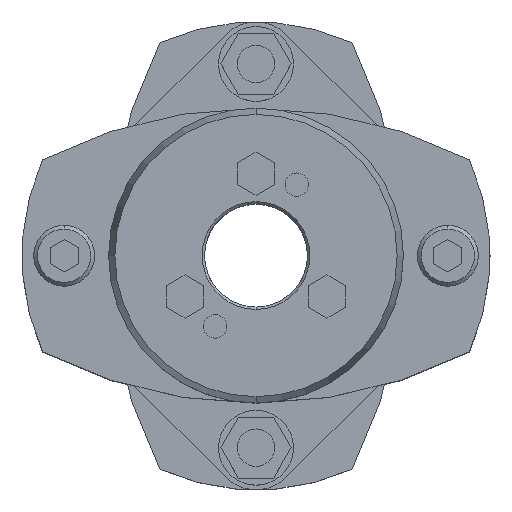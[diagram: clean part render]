
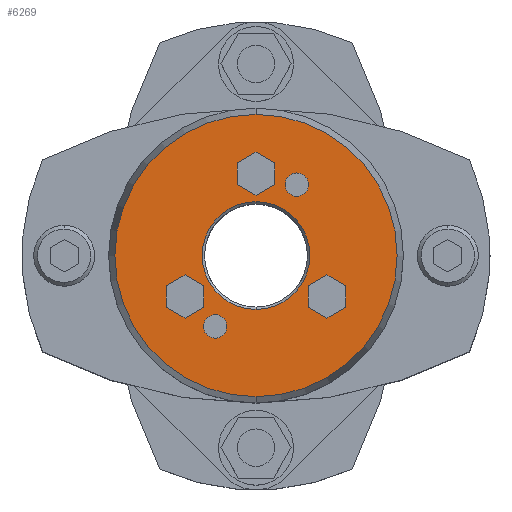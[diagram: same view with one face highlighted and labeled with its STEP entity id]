
A CAD part, top view. The second image highlights one B-rep face of the part: STEP entity #6269.
In plain terms, the highlighted planar face has unit normal (0, 0, 1).
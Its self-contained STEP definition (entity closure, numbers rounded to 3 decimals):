
#1677=CARTESIAN_POINT('',(0.,11.5,55.5));
#1678=VERTEX_POINT('',#1677);
#1694=CARTESIAN_POINT('',(0.,-11.5,55.5));
#1695=VERTEX_POINT('',#1694);
#1702=CARTESIAN_POINT('',(0.,0.,55.5));
#1703=DIRECTION('',(0.0,0.0,1.0));
#1704=DIRECTION('',(0.0,1.0,0.0));
#1705=AXIS2_PLACEMENT_3D('',#1702,#1703,#1704);
#1706=CIRCLE('',#1705,11.5);
#1707=EDGE_CURVE('',#1695,#1678,#1706,.T.);
#1865=CARTESIAN_POINT('',(0.,-30.16,55.5));
#1866=VERTEX_POINT('',#1865);
#1873=CARTESIAN_POINT('',(0.,30.16,55.5));
#1874=VERTEX_POINT('',#1873);
#1875=CARTESIAN_POINT('',(0.,0.,55.5));
#1876=DIRECTION('',(0.0,0.0,-1.0));
#1877=DIRECTION('',(0.0,-1.0,0.0));
#1878=AXIS2_PLACEMENT_3D('',#1875,#1876,#1877);
#1879=CIRCLE('',#1878,30.16);
#1880=EDGE_CURVE('',#1866,#1874,#1879,.T.);
#1975=CARTESIAN_POINT('',(8.75,17.655,55.5));
#1976=VERTEX_POINT('',#1975);
#1992=CARTESIAN_POINT('',(8.75,12.655,55.5));
#1993=VERTEX_POINT('',#1992);
#2000=CARTESIAN_POINT('',(8.75,15.155,55.5));
#2001=DIRECTION('',(0.0,0.0,-1.0));
#2002=DIRECTION('',(0.0,1.0,0.0));
#2003=AXIS2_PLACEMENT_3D('',#2000,#2001,#2002);
#2004=CIRCLE('',#2003,2.5);
#2005=EDGE_CURVE('',#1976,#1993,#2004,.T.);
#2017=CARTESIAN_POINT('',(-8.75,-12.655,55.5));
#2018=VERTEX_POINT('',#2017);
#2034=CARTESIAN_POINT('',(-8.75,-17.655,55.5));
#2035=VERTEX_POINT('',#2034);
#2042=CARTESIAN_POINT('',(-8.75,-15.155,55.5));
#2043=DIRECTION('',(0.0,0.0,-1.0));
#2044=DIRECTION('',(0.0,1.0,0.0));
#2045=AXIS2_PLACEMENT_3D('',#2042,#2043,#2044);
#2046=CIRCLE('',#2045,2.5);
#2047=EDGE_CURVE('',#2018,#2035,#2046,.T.);
#5296=CARTESIAN_POINT('',(-8.75,-15.155,55.5));
#5297=DIRECTION('',(0.0,0.0,-1.0));
#5298=DIRECTION('',(0.0,1.0,0.0));
#5299=AXIS2_PLACEMENT_3D('',#5296,#5297,#5298);
#5300=CIRCLE('',#5299,2.5);
#5301=EDGE_CURVE('',#2035,#2018,#5300,.T.);
#5330=CARTESIAN_POINT('',(8.75,15.155,55.5));
#5331=DIRECTION('',(0.0,0.0,-1.0));
#5332=DIRECTION('',(0.0,1.0,0.0));
#5333=AXIS2_PLACEMENT_3D('',#5330,#5331,#5332);
#5334=CIRCLE('',#5333,2.5);
#5335=EDGE_CURVE('',#1993,#1976,#5334,.T.);
#5373=CARTESIAN_POINT('',(-15.155,-4.131,55.5));
#5374=VERTEX_POINT('',#5373);
#5381=CARTESIAN_POINT('',(-19.155,-6.441,55.5));
#5382=VERTEX_POINT('',#5381);
#5383=CARTESIAN_POINT('',(-19.155,-6.441,55.5));
#5384=DIRECTION('',(0.866,0.5,0.0));
#5385=VECTOR('',#5384,4.619);
#5386=LINE('',#5383,#5385);
#5387=EDGE_CURVE('',#5382,#5374,#5386,.T.);
#5411=CARTESIAN_POINT('',(-11.155,-6.441,55.5));
#5412=VERTEX_POINT('',#5411);
#5419=CARTESIAN_POINT('',(-15.155,-4.131,55.5));
#5420=DIRECTION('',(0.866,-0.5,0.0));
#5421=VECTOR('',#5420,4.619);
#5422=LINE('',#5419,#5421);
#5423=EDGE_CURVE('',#5374,#5412,#5422,.T.);
#5442=CARTESIAN_POINT('',(-11.155,-11.059,55.5));
#5443=VERTEX_POINT('',#5442);
#5450=CARTESIAN_POINT('',(-11.155,-6.441,55.5));
#5451=DIRECTION('',(0.0,-1.0,0.0));
#5452=VECTOR('',#5451,4.619);
#5453=LINE('',#5450,#5452);
#5454=EDGE_CURVE('',#5412,#5443,#5453,.T.);
#5473=CARTESIAN_POINT('',(-15.155,-13.369,55.5));
#5474=VERTEX_POINT('',#5473);
#5481=CARTESIAN_POINT('',(-11.155,-11.059,55.5));
#5482=DIRECTION('',(-0.866,-0.5,0.0));
#5483=VECTOR('',#5482,4.619);
#5484=LINE('',#5481,#5483);
#5485=EDGE_CURVE('',#5443,#5474,#5484,.T.);
#5504=CARTESIAN_POINT('',(-19.155,-11.059,55.5));
#5505=VERTEX_POINT('',#5504);
#5512=CARTESIAN_POINT('',(-15.155,-13.369,55.5));
#5513=DIRECTION('',(-0.866,0.5,0.0));
#5514=VECTOR('',#5513,4.619);
#5515=LINE('',#5512,#5514);
#5516=EDGE_CURVE('',#5474,#5505,#5515,.T.);
#5534=CARTESIAN_POINT('',(-19.155,-11.059,55.5));
#5535=DIRECTION('',(0.0,1.0,0.0));
#5536=VECTOR('',#5535,4.619);
#5537=LINE('',#5534,#5536);
#5538=EDGE_CURVE('',#5505,#5382,#5537,.T.);
#5573=CARTESIAN_POINT('',(0.,22.119,55.5));
#5574=VERTEX_POINT('',#5573);
#5581=CARTESIAN_POINT('',(-4.,19.809,55.5));
#5582=VERTEX_POINT('',#5581);
#5583=CARTESIAN_POINT('',(-4.,19.809,55.5));
#5584=DIRECTION('',(0.866,0.5,0.0));
#5585=VECTOR('',#5584,4.619);
#5586=LINE('',#5583,#5585);
#5587=EDGE_CURVE('',#5582,#5574,#5586,.T.);
#5611=CARTESIAN_POINT('',(4.,19.809,55.5));
#5612=VERTEX_POINT('',#5611);
#5619=CARTESIAN_POINT('',(0.,22.119,55.5));
#5620=DIRECTION('',(0.866,-0.5,0.0));
#5621=VECTOR('',#5620,4.619);
#5622=LINE('',#5619,#5621);
#5623=EDGE_CURVE('',#5574,#5612,#5622,.T.);
#5642=CARTESIAN_POINT('',(4.,15.191,55.5));
#5643=VERTEX_POINT('',#5642);
#5650=CARTESIAN_POINT('',(4.,19.809,55.5));
#5651=DIRECTION('',(0.0,-1.0,0.0));
#5652=VECTOR('',#5651,4.619);
#5653=LINE('',#5650,#5652);
#5654=EDGE_CURVE('',#5612,#5643,#5653,.T.);
#5673=CARTESIAN_POINT('',(0.,12.881,55.5));
#5674=VERTEX_POINT('',#5673);
#5681=CARTESIAN_POINT('',(4.,15.191,55.5));
#5682=DIRECTION('',(-0.866,-0.5,0.0));
#5683=VECTOR('',#5682,4.619);
#5684=LINE('',#5681,#5683);
#5685=EDGE_CURVE('',#5643,#5674,#5684,.T.);
#5704=CARTESIAN_POINT('',(-4.,15.191,55.5));
#5705=VERTEX_POINT('',#5704);
#5712=CARTESIAN_POINT('',(0.,12.881,55.5));
#5713=DIRECTION('',(-0.866,0.5,0.0));
#5714=VECTOR('',#5713,4.619);
#5715=LINE('',#5712,#5714);
#5716=EDGE_CURVE('',#5674,#5705,#5715,.T.);
#5734=CARTESIAN_POINT('',(-4.,15.191,55.5));
#5735=DIRECTION('',(0.0,1.0,0.0));
#5736=VECTOR('',#5735,4.619);
#5737=LINE('',#5734,#5736);
#5738=EDGE_CURVE('',#5705,#5582,#5737,.T.);
#5773=CARTESIAN_POINT('',(15.155,-4.131,55.5));
#5774=VERTEX_POINT('',#5773);
#5781=CARTESIAN_POINT('',(11.155,-6.441,55.5));
#5782=VERTEX_POINT('',#5781);
#5783=CARTESIAN_POINT('',(11.155,-6.441,55.5));
#5784=DIRECTION('',(0.866,0.5,0.0));
#5785=VECTOR('',#5784,4.619);
#5786=LINE('',#5783,#5785);
#5787=EDGE_CURVE('',#5782,#5774,#5786,.T.);
#5811=CARTESIAN_POINT('',(19.155,-6.441,55.5));
#5812=VERTEX_POINT('',#5811);
#5819=CARTESIAN_POINT('',(15.155,-4.131,55.5));
#5820=DIRECTION('',(0.866,-0.5,0.0));
#5821=VECTOR('',#5820,4.619);
#5822=LINE('',#5819,#5821);
#5823=EDGE_CURVE('',#5774,#5812,#5822,.T.);
#5842=CARTESIAN_POINT('',(19.155,-11.059,55.5));
#5843=VERTEX_POINT('',#5842);
#5850=CARTESIAN_POINT('',(19.155,-6.441,55.5));
#5851=DIRECTION('',(0.0,-1.0,0.0));
#5852=VECTOR('',#5851,4.619);
#5853=LINE('',#5850,#5852);
#5854=EDGE_CURVE('',#5812,#5843,#5853,.T.);
#5873=CARTESIAN_POINT('',(15.155,-13.369,55.5));
#5874=VERTEX_POINT('',#5873);
#5881=CARTESIAN_POINT('',(19.155,-11.059,55.5));
#5882=DIRECTION('',(-0.866,-0.5,0.0));
#5883=VECTOR('',#5882,4.619);
#5884=LINE('',#5881,#5883);
#5885=EDGE_CURVE('',#5843,#5874,#5884,.T.);
#5904=CARTESIAN_POINT('',(11.155,-11.059,55.5));
#5905=VERTEX_POINT('',#5904);
#5912=CARTESIAN_POINT('',(15.155,-13.369,55.5));
#5913=DIRECTION('',(-0.866,0.5,0.0));
#5914=VECTOR('',#5913,4.619);
#5915=LINE('',#5912,#5914);
#5916=EDGE_CURVE('',#5874,#5905,#5915,.T.);
#5934=CARTESIAN_POINT('',(11.155,-11.059,55.5));
#5935=DIRECTION('',(0.0,1.0,0.0));
#5936=VECTOR('',#5935,4.619);
#5937=LINE('',#5934,#5936);
#5938=EDGE_CURVE('',#5905,#5782,#5937,.T.);
#6208=CARTESIAN_POINT('',(0.,0.,55.5));
#6209=DIRECTION('',(0.0,0.0,-1.0));
#6210=DIRECTION('',(0.0,-1.0,0.0));
#6211=AXIS2_PLACEMENT_3D('',#6208,#6209,#6210);
#6212=CIRCLE('',#6211,30.16);
#6213=EDGE_CURVE('',#1874,#1866,#6212,.T.);
#6218=CARTESIAN_POINT('',(0.,2.864,55.5));
#6219=DIRECTION('',(0.0,0.0,1.0));
#6220=DIRECTION('',(0.0,1.0,0.0));
#6221=AXIS2_PLACEMENT_3D('',#6218,#6219,#6220);
#6222=PLANE('',#6221);
#6223=ORIENTED_EDGE('',*,*,#6213,.F.);
#6224=ORIENTED_EDGE('',*,*,#1880,.F.);
#6225=EDGE_LOOP('',(#6223,#6224));
#6226=FACE_OUTER_BOUND('',#6225,.T.);
#6227=ORIENTED_EDGE('',*,*,#2047,.T.);
#6228=ORIENTED_EDGE('',*,*,#5301,.T.);
#6229=EDGE_LOOP('',(#6227,#6228));
#6230=FACE_BOUND('',#6229,.T.);
#6231=ORIENTED_EDGE('',*,*,#2005,.T.);
#6232=ORIENTED_EDGE('',*,*,#5335,.T.);
#6233=EDGE_LOOP('',(#6231,#6232));
#6234=FACE_BOUND('',#6233,.T.);
#6235=ORIENTED_EDGE('',*,*,#5387,.T.);
#6236=ORIENTED_EDGE('',*,*,#5423,.T.);
#6237=ORIENTED_EDGE('',*,*,#5454,.T.);
#6238=ORIENTED_EDGE('',*,*,#5485,.T.);
#6239=ORIENTED_EDGE('',*,*,#5516,.T.);
#6240=ORIENTED_EDGE('',*,*,#5538,.T.);
#6241=EDGE_LOOP('',(#6235,#6236,#6237,#6238,#6239,#6240));
#6242=FACE_BOUND('',#6241,.T.);
#6243=ORIENTED_EDGE('',*,*,#5587,.T.);
#6244=ORIENTED_EDGE('',*,*,#5623,.T.);
#6245=ORIENTED_EDGE('',*,*,#5654,.T.);
#6246=ORIENTED_EDGE('',*,*,#5685,.T.);
#6247=ORIENTED_EDGE('',*,*,#5716,.T.);
#6248=ORIENTED_EDGE('',*,*,#5738,.T.);
#6249=EDGE_LOOP('',(#6243,#6244,#6245,#6246,#6247,#6248));
#6250=FACE_BOUND('',#6249,.T.);
#6251=ORIENTED_EDGE('',*,*,#5787,.T.);
#6252=ORIENTED_EDGE('',*,*,#5823,.T.);
#6253=ORIENTED_EDGE('',*,*,#5854,.T.);
#6254=ORIENTED_EDGE('',*,*,#5885,.T.);
#6255=ORIENTED_EDGE('',*,*,#5916,.T.);
#6256=ORIENTED_EDGE('',*,*,#5938,.T.);
#6257=EDGE_LOOP('',(#6251,#6252,#6253,#6254,#6255,#6256));
#6258=FACE_BOUND('',#6257,.T.);
#6259=ORIENTED_EDGE('',*,*,#1707,.F.);
#6260=CARTESIAN_POINT('',(0.,0.,55.5));
#6261=DIRECTION('',(0.0,0.0,1.0));
#6262=DIRECTION('',(0.0,1.0,0.0));
#6263=AXIS2_PLACEMENT_3D('',#6260,#6261,#6262);
#6264=CIRCLE('',#6263,11.5);
#6265=EDGE_CURVE('',#1678,#1695,#6264,.T.);
#6266=ORIENTED_EDGE('',*,*,#6265,.F.);
#6267=EDGE_LOOP('',(#6259,#6266));
#6268=FACE_BOUND('',#6267,.T.);
#6269=ADVANCED_FACE('',(#6226,#6230,#6234,#6242,#6250,#6258,#6268),#6222,.T.);
